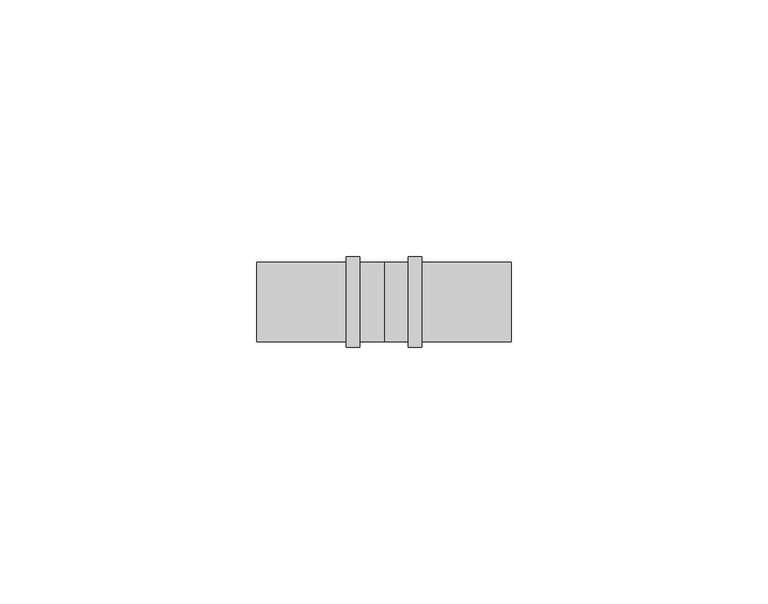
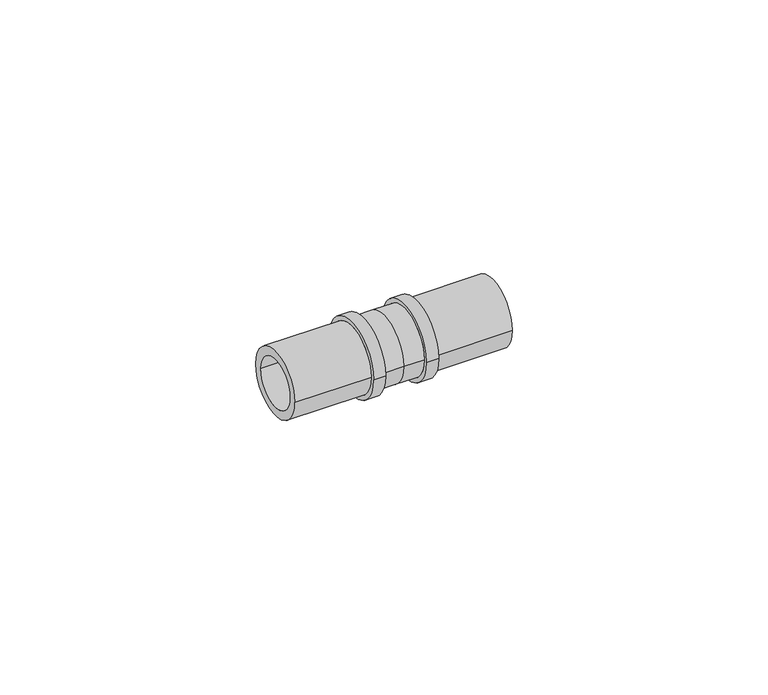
"""IFC4 building model written with IfcOpenShell, lengths in millimetres: pipe fitting geometry, FASTLOC_Coupling equal LX : FSL C LX PL."""

from ifc_helpers import new_model, si_unit, frame, origin, place, context, project, spatial, polyline, circle_curve, source, transform, mapped, element, save
from ifc_brep_helpers import plane_surface, cylinder_surface, revolved_surface, advanced_brep


def pipe_fitting_cd8a310a(model_context):
    return source(origin(), model_context, "Body", "AdvancedBrep", [
        advanced_brep(
        [(7.4, 8.8, 0.0), (7.4, -8.8, 0.0), (4.7, -8.8, 0.0), (4.7, 8.8, 0.0), (24.8, 7.75, 0.0), (24.8, -7.75, 0.0), (7.4, -7.75, 0.0), (7.4, 7.75, 0.0), (-24.8, 5.75, 0.0), (-24.8, -5.75, 0.0), (24.8, -5.75, 0.0), (24.8, 5.75, 0.0), (-7.4, 7.75, 0.0), (-7.4, -7.75, 0.0), (-24.8, -7.75, 0.0), (-24.8, 7.75, 0.0), (-4.7, 8.8, 0.0), (-4.7, -8.8, 0.0), (-7.4, -8.8, 0.0), (-7.4, 8.8, 0.0), (0.0, 7.75, 0.0), (0.0, -7.75, 0.0), (-4.7, -7.75, 0.0), (-4.7, 7.75, 0.0), (4.7, 7.75, 0.0), (4.7, -7.75, 0.0)],
        [
            (0, 1, circle_curve(frame((7.4, 0.0, 0.0), z_axis=(-1.0, 0.0, 0.0), x_axis=(0.0, -1.0, 0.0)), 8.8)),
            (1, 2),
            (2, 3, circle_curve(frame((4.7, 0.0, 0.0), z_axis=(1.0, 0.0, 0.0), x_axis=(0.0, -1.0, 0.0)), 8.8)),
            (3, 0),
            (4, 5, circle_curve(frame((24.8, 0.0, 0.0), z_axis=(-1.0, 0.0, 0.0), x_axis=(0.0, -1.0, 0.0)), 7.75)),
            (5, 6),
            (6, 7, circle_curve(frame((7.4, 0.0, 0.0), z_axis=(1.0, 0.0, 0.0), x_axis=(0.0, -1.0, 0.0)), 7.75)),
            (7, 4),
            (8, 9, circle_curve(frame((-24.8, 0.0, 0.0), z_axis=(-1.0, 0.0, 0.0), x_axis=(0.0, -1.0, 0.0)), 5.75)),
            (9, 10),
            (10, 11, circle_curve(frame((24.8, 0.0, 0.0), z_axis=(1.0, 0.0, 0.0), x_axis=(0.0, -1.0, 0.0)), 5.75)),
            (11, 8),
            (12, 13, circle_curve(frame((-7.4, 0.0, 0.0), z_axis=(-1.0, 0.0, 0.0), x_axis=(0.0, -1.0, 0.0)), 7.75)),
            (13, 14),
            (14, 15, circle_curve(frame((-24.8, 0.0, 0.0), z_axis=(1.0, 0.0, 0.0), x_axis=(0.0, -1.0, 0.0)), 7.75)),
            (15, 12),
            (16, 17, circle_curve(frame((-4.7, 0.0, 0.0), z_axis=(-1.0, 0.0, 0.0), x_axis=(0.0, -1.0, 0.0)), 8.8)),
            (17, 18),
            (18, 19, circle_curve(frame((-7.4, 0.0, 0.0), z_axis=(1.0, 0.0, 0.0), x_axis=(0.0, -1.0, 0.0)), 8.8)),
            (19, 16),
            (20, 21, circle_curve(frame((0.0, 0.0, 0.0), z_axis=(-1.0, 0.0, 0.0), x_axis=(0.0, -1.0, 0.0)), 7.75)),
            (21, 22),
            (22, 23, circle_curve(frame((-4.7, 0.0, 0.0), z_axis=(1.0, 0.0, 0.0), x_axis=(0.0, -1.0, 0.0)), 7.75)),
            (23, 20),
            (24, 25, circle_curve(frame((4.7, 0.0, 0.0), z_axis=(-1.0, 0.0, 0.0), x_axis=(0.0, -1.0, 0.0)), 7.75)),
            (25, 21),
            (20, 24),
            (1, 0, circle_curve(frame((7.4, 0.0, 0.0), z_axis=(-1.0, 0.0, 0.0), x_axis=(0.0, 1.0, 0.0)), 8.8)),
            (3, 2, circle_curve(frame((4.7, 0.0, 0.0), z_axis=(1.0, 0.0, 0.0), x_axis=(0.0, 1.0, 0.0)), 8.8)),
            (6, 7, circle_curve(frame((7.4, 0.0, 0.0), z_axis=(-1.0, 0.0, 0.0), x_axis=(0.0, 1.0, 0.0)), 7.75)),
            (5, 4, circle_curve(frame((24.8, 0.0, 0.0), z_axis=(-1.0, 0.0, 0.0), x_axis=(0.0, 1.0, 0.0)), 7.75)),
            (10, 11, circle_curve(frame((24.8, 0.0, 0.0), z_axis=(-1.0, 0.0, 0.0), x_axis=(0.0, 1.0, 0.0)), 5.75)),
            (9, 8, circle_curve(frame((-24.8, 0.0, 0.0), z_axis=(-1.0, 0.0, 0.0), x_axis=(0.0, 1.0, 0.0)), 5.75)),
            (14, 15, circle_curve(frame((-24.8, 0.0, 0.0), z_axis=(-1.0, 0.0, 0.0), x_axis=(0.0, 1.0, 0.0)), 7.75)),
            (13, 12, circle_curve(frame((-7.4, 0.0, 0.0), z_axis=(-1.0, 0.0, 0.0), x_axis=(0.0, 1.0, 0.0)), 7.75)),
            (18, 19, circle_curve(frame((-7.4, 0.0, 0.0), z_axis=(-1.0, 0.0, 0.0), x_axis=(0.0, 1.0, 0.0)), 8.8)),
            (17, 16, circle_curve(frame((-4.7, 0.0, 0.0), z_axis=(-1.0, 0.0, 0.0), x_axis=(0.0, 1.0, 0.0)), 8.8)),
            (22, 23, circle_curve(frame((-4.7, 0.0, 0.0), z_axis=(-1.0, 0.0, 0.0), x_axis=(0.0, 1.0, 0.0)), 7.75)),
            (21, 20, circle_curve(frame((0.0, 0.0, 0.0), z_axis=(-1.0, 0.0, 0.0), x_axis=(0.0, 1.0, 0.0)), 7.75)),
            (25, 24, circle_curve(frame((4.7, 0.0, 0.0), z_axis=(-1.0, 0.0, 0.0), x_axis=(0.0, 1.0, 0.0)), 7.75)),
        ],
        [
            cylinder_surface(frame((0.0, 0.0, 0.0), z_axis=(1.0, 0.0, 0.0), x_axis=(0.0, -1.0, 0.0)), 8.8),
            cylinder_surface(frame((0.0, 0.0, 0.0), z_axis=(1.0, 0.0, 0.0), x_axis=(0.0, -1.0, 0.0)), 7.75),
            revolved_surface(polyline([(24.8, -5.75, 0.0), (-24.8, -5.75, 0.0)]), (0.0, 0.0, 0.0), (1.0, 0.0, 0.0)),
            cylinder_surface(frame((0.0, 0.0, 0.0), z_axis=(1.0, 0.0, 0.0), x_axis=(0.0, 1.0, 0.0)), 8.8),
            plane_surface(frame((7.4, 0.0, 0.0), z_axis=(1.0, 0.0, 0.0), x_axis=(0.0, 1.0, 0.0))),
            cylinder_surface(frame((0.0, 0.0, 0.0), z_axis=(1.0, 0.0, 0.0), x_axis=(0.0, 1.0, 0.0)), 7.75),
            plane_surface(frame((24.8, 0.0, 0.0), z_axis=(1.0, 0.0, 0.0), x_axis=(0.0, 1.0, 0.0))),
            revolved_surface(polyline([(24.8, 5.75, 0.0), (-24.8, 5.75, 0.0)]), (0.0, 0.0, 0.0), (1.0, 0.0, 0.0)),
            plane_surface(frame((-24.8, 0.0, 0.0), z_axis=(-1.0, 0.0, 0.0), x_axis=(0.0, 1.0, 0.0))),
            plane_surface(frame((-7.4, 0.0, 0.0), z_axis=(-1.0, 0.0, 0.0), x_axis=(0.0, 1.0, 0.0))),
            plane_surface(frame((-4.7, 0.0, 0.0), z_axis=(1.0, 0.0, 0.0), x_axis=(0.0, 1.0, 0.0))),
            plane_surface(frame((4.7, 0.0, 0.0), z_axis=(-1.0, 0.0, 0.0), x_axis=(0.0, 1.0, 0.0))),
        ],
        [
            (0, [[1, 2, 3, 4]]),
            (1, [[5, 6, 7, 8]]),
            (2, [[9, 10, 11, 12]]),
            (1, [[13, 14, 15, 16]]),
            (0, [[17, 18, 19, 20]]),
            (1, [[21, 22, 23, 24]]),
            (1, [[25, 26, -21, 27]]),
            (3, [[28, -4, 29, -2]]),
            (4, [[-28, -1], [30, -7]]),
            (5, [[31, -8, -30, -6]]),
            (6, [[-31, -5], [32, -11]]),
            (7, [[33, -12, -32, -10]]),
            (8, [[34, -15], [-33, -9]]),
            (5, [[35, -16, -34, -14]]),
            (9, [[36, -19], [-35, -13]]),
            (3, [[37, -20, -36, -18]]),
            (10, [[-37, -17], [38, -23]]),
            (5, [[39, -24, -38, -22]]),
            (5, [[40, -27, -39, -26]]),
            (11, [[-29, -3], [-40, -25]]),
        ],
    ),
    ])


if __name__ == "__main__":
    model = new_model("IFC4")
    model_context = context("Model", 3, world=origin())
    ifc_project = project(units=[si_unit("LENGTHUNIT", "METRE", prefix="MILLI")], contexts=[model_context])
    site = spatial("IfcSite", under=ifc_project)
    building = spatial("IfcBuilding", under=site)
    placement = place(None, origin())
    pipe_fitting_shape = pipe_fitting_cd8a310a(model_context)
    element("IfcPipeFitting", 1, ObjectType="FASTLOC_Coupling equal LX : FSL C LX PL", at=placement, inside=building, context=model_context, shape_type="MappedRepresentation", body=[
        mapped(pipe_fitting_shape, transform((0.0, 0.0, 0.0), x_axis=(1.0, 0.0, 0.0), y_axis=(0.0, 1.0, 0.0), z_axis=(0.0, 0.0, 1.0))),
    ])
    save(model, "model.ifc")
